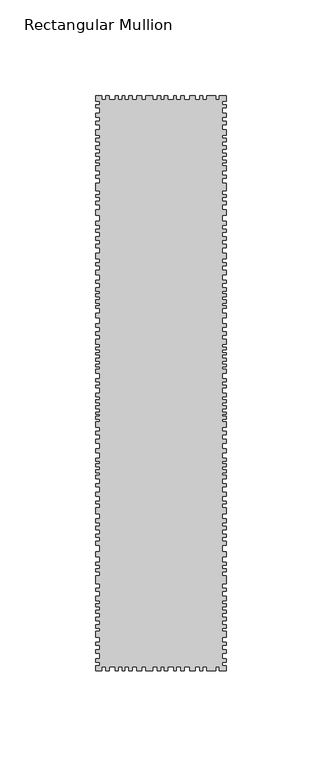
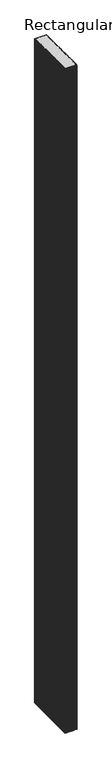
"""IFC4 building model written with IfcOpenShell, lengths in millimetres: member geometry, Rectangular Mullion : DucoSun Cubic Design louvre 300."""

from ifc_helpers import new_model, si_unit, frame, origin, place, context, project, spatial, polyline, outline, extrude, source, transform, mapped, element, save


def rectangular_mullion_f4db7530(model_context):
    return source(origin(), model_context, "Body", "SweptSolid", [
        extrude(outline(polyline([(34.0, -297.3782451), (34.0, -300.0), (30.4544414, -300.0), (30.4544414, -298.0), (28.627942, -298.0), (28.627942, -300.0), (23.9842994, -300.0), (23.9842994, -298.0), (21.8172663, -298.0), (21.8172663, -300.0), (20.3003431, -300.0), (20.3003431, -298.0), (17.9475642, -298.0), (17.9475642, -300.0), (14.8827601, -300.0), (14.8827601, -298.0), (12.0965746, -298.0), (12.0965746, -300.0), (10.3939057, -300.0), (10.3939057, -298.0), (8.0101692, -298.0), (8.0101692, -300.0), (6.5242036, -300.0), (6.5242036, -298.0), (3.4884678, -298.0), (3.4884678, -300.0), (1.7094289, -300.0), (1.7094289, -298.0), (0.0, -298.0), (0.0, -300.0), (-1.8486488, -300.0), (-1.8486488, -298.0), (-4.2128978, -298.0), (-4.2128978, -300.0), (-7.9816511, -300.0), (-7.9816511, -298.0), (-10.0415908, -298.0), (-10.0415908, -300.0), (-12.7335575, -300.0), (-12.7335575, -298.0), (-15.0041729, -298.0), (-15.0041729, -300.0), (-16.8768453, -300.0), (-16.8768453, -298.0), (-18.9367851, -298.0), (-18.9367851, -300.0), (-20.2710642, -300.0), (-20.2710642, -298.0), (-22.3075955, -298.0), (-22.3075955, -300.0), (-23.8993671, -300.0), (-23.8993671, -298.0), (-26.9658683, -298.0), (-26.9658683, -300.0), (-28.9321744, -300.0), (-28.9321744, -298.0), (-30.8750721, -298.0), (-30.8750721, -300.0), (-34.0, -300.0), (-34.0, -297.3782451), (-32.0, -297.3782451), (-32.0, -295.4241521), (-34.0, -295.4241521), (-34.0, -293.6532553), (-32.0, -293.6532553), (-32.0, -290.9460223), (-34.0, -290.9460223), (-34.0, -288.9105087), (-32.0, -288.9105087), (-32.0, -286.7121541), (-34.0, -286.7121541), (-34.0, -285.0023227), (-32.0, -285.0023227), (-32.0, -282.3561551), (-34.0, -282.3561551), (-34.0, -279.3843053), (-32.0, -279.3843053), (-32.0, -277.8917893), (-34.0, -277.8917893), (-34.0, -275.8425117), (-32.0, -275.8425117), (-32.0, -273.8680636), (-34.0, -273.8680636), (-34.0, -272.1582322), (-32.0, -272.1582322), (-32.0, -270.0820083), (-34.0, -270.0820083), (-34.0, -268.3111116), (-32.0, -268.3111116), (-32.0, -266.4995045), (-34.0, -266.4995045), (-34.0, -265.0713495), (-32.0, -265.0713495), (-32.0, -263.4577392), (-34.0, -263.4577392), (-34.0, -261.0328231), (-32.0, -261.0328231), (-32.0, -258.5725067), (-34.0, -258.5725067), (-34.0, -257.0325964), (-32.0, -257.0325964), (-32.0, -254.5014796), (-34.0, -254.5014796), (-34.0, -250.4127524), (-32.0, -250.4127524), (-32.0, -248.4126391), (-34.0, -248.4126391), (-34.0, -246.8373286), (-32.0, -246.8373286), (-32.0, -244.9965163), (-34.0, -244.9965163), (-34.0, -243.3504053), (-32.0, -243.3504053), (-32.0, -240.3767855), (-34.0, -240.3767855), (-34.0, -237.9545244), (-32.0, -237.9545244), (-32.0, -234.5552168), (-34.0, -234.5552168), (-34.0, -232.5197032), (-32.0, -232.5197032), (-32.0, -230.239928), (-34.0, -230.239928), (-34.0, -228.6929377), (-32.0, -228.6929377), (-32.0, -226.4335177), (-34.0, -226.4335177), (-34.0, -224.5608452), (-32.0, -224.5608452), (-32.0, -222.6271073), (-34.0, -222.6271073), (-34.0, -220.5508835), (-32.0, -220.5508835), (-32.0, -218.0064916), (-34.0, -218.0064916), (-34.0, -214.9328661), (-32.0, -214.9328661), (-32.0, -212.9177077), (-34.0, -212.9177077), (-34.0, -211.4114277), (-32.0, -211.4114277), (-32.0, -208.9688114), (-34.0, -208.9688114), (-34.0, -206.7118273), (-32.0, -206.7118273), (-32.0, -203.8852623), (-34.0, -203.8852623), (-34.0, -202.4316003), (-32.0, -202.4316003), (-32.0, -199.9011516), (-34.0, -199.9011516), (-34.0, -197.8552569), (-32.0, -197.8552569), (-32.0, -196.6169522), (-34.0, -196.6169522), (-34.0, -195.0825312), (-32.0, -195.0825312), (-32.0, -193.4673512), (-34.0, -193.4673512), (-34.0, -192.0675286), (-32.0, -192.0675286), (-32.0, -190.5869469), (-34.0, -190.5869469), (-34.0, -189.1602046), (-32.0, -189.1602046), (-32.0, -186.3310055), (-34.0, -186.3310055), (-34.0, -184.2608252), (-32.0, -184.2608252), (-32.0, -181.1919832), (-34.0, -181.1919832), (-34.0, -179.2537672), (-32.0, -179.2537672), (-32.0, -176.9360418), (-34.0, -176.9360418), (-34.0, -175.0004598), (-32.0, -175.0004598), (-32.0, -172.9007258), (-34.0, -172.9007258), (-34.0, -170.1010805), (-32.0, -170.1010805), (-32.0, -168.8089365), (-34.0, -168.8089365), (-34.0, -167.3014351), (-32.0, -167.3014351), (-32.0, -166.0362108), (-34.0, -166.0362108), (-34.0, -165.0401831), (-32.0, -165.0401831), (-32.0, -163.2096458), (-34.0, -163.2096458), (-34.0, -161.6483051), (-32.0, -161.6483051), (-32.0, -160.1408038), (-34.0, -160.1408038), (-34.0, -158.6063828), (-32.0, -158.6063828), (-32.0, -157.0719618), (-34.0, -157.0719618), (-34.0, -155.0799064), (-32.0, -155.0799064), (-32.0, -152.3762692), (-34.0, -152.3762692), (-34.0, -150.8903036), (-32.0, -150.8903036), (-32.0, -149.1257194), (-34.0, -149.1257194), (-34.0, -147.6087962), (-32.0, -147.6087962), (-32.0, -144.8535683), (-34.0, -144.8535683), (-34.0, -142.7484504), (-32.0, -142.7484504), (-32.0, -141.4172729), (-34.0, -141.4172729), (-34.0, -139.9622649), (-32.0, -139.9622649), (-32.0, -138.3524688), (-34.0, -138.3524688), (-34.0, -136.8355456), (-32.0, -136.8355456), (-32.0, -135.1947919), (-34.0, -135.1947919), (-34.0, -133.9255296), (-32.0, -133.9255296), (-32.0, -132.5014792), (-34.0, -132.5014792), (-34.0, -131.1083865), (-32.0, -131.1083865), (-32.0, -129.6843361), (-34.0, -129.6843361), (-34.0, -127.0529387), (-32.0, -127.0529387), (-32.0, -124.9787784), (-34.0, -124.9787784), (-34.0, -123.0284485), (-32.0, -123.0284485), (-32.0, -120.7995001), (-34.0, -120.7995001), (-34.0, -118.8182126), (-32.0, -118.8182126), (-32.0, -115.6914933), (-34.0, -115.6914933), (-34.0, -113.4935025), (-32.0, -113.4935025), (-32.0, -110.954978), (-34.0, -110.954978), (-34.0, -109.4070971), (-32.0, -109.4070971), (-32.0, -108.1378348), (-34.0, -108.1378348), (-34.0, -106.4970812), (-32.0, -106.4970812), (-32.0, -104.8253698), (-34.0, -104.8253698), (-34.0, -103.3394042), (-32.0, -103.3394042), (-32.0, -102.0391843), (-34.0, -102.0391843), (-34.0, -100.0578969), (-32.0, -100.0578969), (-32.0, -97.6741604), (-34.0, -97.6741604), (-34.0, -96.0953219), (-32.0, -96.0953219), (-32.0, -93.3091364), (-34.0, -93.3091364), (-34.0, -91.0182728), (-32.0, -91.0182728), (-32.0, -88.572621), (-34.0, -88.572621), (-34.0, -87.1485707), (-32.0, -87.1485707), (-32.0, -85.0124951), (-34.0, -85.0124951), (-34.0, -82.1643944), (-32.0, -82.1643944), (-32.0, -79.3782089), (-34.0, -79.3782089), (-34.0, -77.427879), (-32.0, -77.427879), (-32.0, -75.4156339), (-34.0, -75.4156339), (-34.0, -73.6510498), (-32.0, -73.6510498), (-32.0, -71.1744404), (-34.0, -71.1744404), (-34.0, -69.6884748), (-32.0, -69.6884748), (-32.0, -67.5523993), (-34.0, -67.5523993), (-34.0, -65.4163237), (-32.0, -65.4163237), (-32.0, -62.1967316), (-34.0, -62.1967316), (-34.0, -59.5343765), (-32.0, -59.5343765), (-32.0, -56.7791486), (-34.0, -56.7791486), (-34.0, -55.0764797), (-32.0, -55.0764797), (-32.0, -52.9404041), (-34.0, -52.9404041), (-34.0, -51.6092266), (-32.0, -51.6092266), (-32.0, -49.5660239), (-34.0, -49.5660239), (-34.0, -45.512038), (-32.0, -45.512038), (-32.0, -43.0030092), (-34.0, -43.0030092), (-34.0, -41.3312979), (-32.0, -41.3312979), (-32.0, -39.0404342), (-34.0, -39.0404342), (-34.0, -36.5638249), (-32.0, -36.5638249), (-32.0, -35.015944), (-34.0, -35.015944), (-34.0, -33.5609361), (-32.0, -33.5609361), (-32.0, -31.5796486), (-34.0, -31.5796486), (-34.0, -30.0627254), (-32.0, -30.0627254), (-32.0, -27.8337769), (-34.0, -27.8337769), (-34.0, -26.1620656), (-32.0, -26.1620656), (-32.0, -24.0259901), (-34.0, -24.0259901), (-34.0, -22.0756602), (-32.0, -22.0756602), (-32.0, -20.6516099), (-34.0, -20.6516099), (-34.0, -17.7415939), (-32.0, -17.7415939), (-32.0, -15.2030693), (-34.0, -15.2030693), (-34.0, -13.1908242), (-32.0, -13.1908242), (-32.0, -11.2404944), (-34.0, -11.2404944), (-34.0, -9.1353764), (-32.0, -9.1353764), (-32.0, -6.2563181), (-34.0, -6.2563181), (-34.0, -4.6155644), (-32.0, -4.6155644), (-32.0, -2.8509802), (-34.0, -2.8509802), (-34.0, 0.0), (-30.8750721, 0.0), (-30.8750721, -2.0), (-28.9321744, -2.0), (-28.9321744, 0.0), (-26.9658683, 0.0), (-26.9658683, -2.0), (-23.8993671, -2.0), (-23.8993671, 0.0), (-22.3075955, 0.0), (-22.3075955, -2.0), (-20.2710642, -2.0), (-20.2710642, 0.0), (-18.9367851, 0.0), (-18.9367851, -2.0), (-16.8768453, -2.0), (-16.8768453, 0.0), (-15.0041729, 0.0), (-15.0041729, -2.0), (-12.7335575, -2.0), (-12.7335575, 0.0), (-10.0415908, 0.0), (-10.0415908, -2.0), (-7.9816511, -2.0), (-7.9816511, 0.0), (-4.2128978, 0.0), (-4.2128978, -2.0), (-1.8486488, -2.0), (-1.8486488, 0.0), (0.0, 0.0), (0.0, -2.0), (1.7094289, -2.0), (1.7094289, 0.0), (3.4884678, 0.0), (3.4884678, -2.0), (6.5242036, -2.0), (6.5242036, 0.0), (8.0101692, 0.0), (8.0101692, -2.0), (10.3939057, -2.0), (10.3939057, 0.0), (12.0965746, 0.0), (12.0965746, -2.0), (14.8827601, -2.0), (14.8827601, 0.0), (17.9475642, 0.0), (17.9475642, -2.0), (20.3003431, -2.0), (20.3003431, 0.0), (21.8172663, 0.0), (21.8172663, -2.0), (23.9842994, -2.0), (23.9842994, 0.0), (28.627942, 0.0), (28.627942, -2.0), (30.4544414, -2.0), (30.4544414, 0.0), (34.0, 0.0), (34.0, -2.8509802), (32.0, -2.8509802), (32.0, -4.6155644), (34.0, -4.6155644), (34.0, -6.2563181), (32.0, -6.2563181), (32.0, -9.1353764), (34.0, -9.1353764), (34.0, -11.2404944), (32.0, -11.2404944), (32.0, -13.1908242), (34.0, -13.1908242), (34.0, -15.2030693), (32.0, -15.2030693), (32.0, -17.7415939), (34.0, -17.7415939), (34.0, -20.6516099), (32.0, -20.6516099), (32.0, -22.0756602), (34.0, -22.0756602), (34.0, -24.0259901), (32.0, -24.0259901), (32.0, -26.1620656), (34.0, -26.1620656), (34.0, -27.8337769), (32.0, -27.8337769), (32.0, -30.0627254), (34.0, -30.0627254), (34.0, -31.5796486), (32.0, -31.5796486), (32.0, -33.5609361), (34.0, -33.5609361), (34.0, -35.015944), (32.0, -35.015944), (32.0, -36.5638249), (34.0, -36.5638249), (34.0, -39.0404342), (32.0, -39.0404342), (32.0, -41.3312979), (34.0, -41.3312979), (34.0, -43.0030092), (32.0, -43.0030092), (32.0, -45.512038), (34.0, -45.512038), (34.0, -49.5660239), (32.0, -49.5660239), (32.0, -51.6092266), (34.0, -51.6092266), (34.0, -52.9404041), (32.0, -52.9404041), (32.0, -55.0764797), (34.0, -55.0764797), (34.0, -56.7791486), (32.0, -56.7791486), (32.0, -59.5343765), (34.0, -59.5343765), (34.0, -62.1967316), (32.0, -62.1967316), (32.0, -65.4163237), (34.0, -65.4163237), (34.0, -67.5523993), (32.0, -67.5523993), (32.0, -69.6884748), (34.0, -69.6884748), (34.0, -71.1744404), (32.0, -71.1744404), (32.0, -73.6510498), (34.0, -73.6510498), (34.0, -75.4156339), (32.0, -75.4156339), (32.0, -77.427879), (34.0, -77.427879), (34.0, -79.3782089), (32.0, -79.3782089), (32.0, -82.1643944), (34.0, -82.1643944), (34.0, -85.0124951), (32.0, -85.0124951), (32.0, -87.1485707), (34.0, -87.1485707), (34.0, -88.572621), (32.0, -88.572621), (32.0, -91.0182728), (34.0, -91.0182728), (34.0, -93.3091364), (32.0, -93.3091364), (32.0, -96.0953219), (34.0, -96.0953219), (34.0, -97.6741604), (32.0, -97.6741604), (32.0, -100.0578969), (34.0, -100.0578969), (34.0, -102.0391843), (32.0, -102.0391843), (32.0, -103.3394042), (34.0, -103.3394042), (34.0, -104.8253698), (32.0, -104.8253698), (32.0, -106.4970812), (34.0, -106.4970812), (34.0, -108.1378348), (32.0, -108.1378348), (32.0, -109.4070971), (34.0, -109.4070971), (34.0, -110.954978), (32.0, -110.954978), (32.0, -113.4935025), (34.0, -113.4935025), (34.0, -115.6914933), (32.0, -115.6914933), (32.0, -118.8182126), (34.0, -118.8182126), (34.0, -120.7995001), (32.0, -120.7995001), (32.0, -123.0284485), (34.0, -123.0284485), (34.0, -124.9787784), (32.0, -124.9787784), (32.0, -127.0529387), (34.0, -127.0529387), (34.0, -129.6843361), (32.0, -129.6843361), (32.0, -131.1083865), (34.0, -131.1083865), (34.0, -132.5014792), (32.0, -132.5014792), (32.0, -133.9255296), (34.0, -133.9255296), (34.0, -135.1947919), (32.0, -135.1947919), (32.0, -136.8355456), (34.0, -136.8355456), (34.0, -138.3524688), (32.0, -138.3524688), (32.0, -139.9622649), (34.0, -139.9622649), (34.0, -141.4172729), (32.0, -141.4172729), (32.0, -142.7484504), (34.0, -142.7484504), (34.0, -144.8535683), (32.0, -144.8535683), (32.0, -147.6087962), (34.0, -147.6087962), (34.0, -149.1257194), (32.0, -149.1257194), (32.0, -150.8903036), (34.0, -150.8903036), (34.0, -152.3762692), (32.0, -152.3762692), (32.0, -155.0799064), (34.0, -155.0799064), (34.0, -157.0719618), (32.0, -157.0719618), (32.0, -158.6063828), (34.0, -158.6063828), (34.0, -160.1408038), (32.0, -160.1408038), (32.0, -161.6483051), (34.0, -161.6483051), (34.0, -163.2096458), (32.0, -163.2096458), (32.0, -165.0401831), (34.0, -165.0401831), (34.0, -166.0362108), (32.0, -166.0362108), (32.0, -167.3014351), (34.0, -167.3014351), (34.0, -168.8089365), (32.0, -168.8089365), (32.0, -170.1010805), (34.0, -170.1010805), (34.0, -172.9007258), (32.0, -172.9007258), (32.0, -175.0004598), (34.0, -175.0004598), (34.0, -176.9360418), (32.0, -176.9360418), (32.0, -179.2537672), (34.0, -179.2537672), (34.0, -181.1919832), (32.0, -181.1919832), (32.0, -184.2608252), (34.0, -184.2608252), (34.0, -186.3310055), (32.0, -186.3310055), (32.0, -189.1602046), (34.0, -189.1602046), (34.0, -190.5869469), (32.0, -190.5869469), (32.0, -192.0675286), (34.0, -192.0675286), (34.0, -193.4673512), (32.0, -193.4673512), (32.0, -195.0825312), (34.0, -195.0825312), (34.0, -196.6169522), (32.0, -196.6169522), (32.0, -197.8552569), (34.0, -197.8552569), (34.0, -199.9011516), (32.0, -199.9011516), (32.0, -202.4316003), (34.0, -202.4316003), (34.0, -203.8852623), (32.0, -203.8852623), (32.0, -206.7118273), (34.0, -206.7118273), (34.0, -208.9688114), (32.0, -208.9688114), (32.0, -211.4114277), (34.0, -211.4114277), (34.0, -212.9177077), (32.0, -212.9177077), (32.0, -214.9328661), (34.0, -214.9328661), (34.0, -218.0064916), (32.0, -218.0064916), (32.0, -220.5508835), (34.0, -220.5508835), (34.0, -222.6271073), (32.0, -222.6271073), (32.0, -224.5608452), (34.0, -224.5608452), (34.0, -226.4335177), (32.0, -226.4335177), (32.0, -228.6929377), (34.0, -228.6929377), (34.0, -230.239928), (32.0, -230.239928), (32.0, -232.5197032), (34.0, -232.5197032), (34.0, -234.5552168), (32.0, -234.5552168), (32.0, -237.9545244), (34.0, -237.9545244), (34.0, -240.3767855), (32.0, -240.3767855), (32.0, -243.3504053), (34.0, -243.3504053), (34.0, -244.9965163), (32.0, -244.9965163), (32.0, -246.8373286), (34.0, -246.8373286), (34.0, -248.4126391), (32.0, -248.4126391), (32.0, -250.4127524), (34.0, -250.4127524), (34.0, -254.5014796), (32.0, -254.5014796), (32.0, -257.0325964), (34.0, -257.0325964), (34.0, -258.5725067), (32.0, -258.5725067), (32.0, -261.0328231), (34.0, -261.0328231), (34.0, -263.4577392), (32.0, -263.4577392), (32.0, -265.0713495), (34.0, -265.0713495), (34.0, -266.4995045), (32.0, -266.4995045), (32.0, -268.3111116), (34.0, -268.3111116), (34.0, -270.0820083), (32.0, -270.0820083), (32.0, -272.1582322), (34.0, -272.1582322), (34.0, -273.8680636), (32.0, -273.8680636), (32.0, -275.8425117), (34.0, -275.8425117), (34.0, -277.8917893), (32.0, -277.8917893), (32.0, -279.3843053), (34.0, -279.3843053), (34.0, -282.3561551), (32.0, -282.3561551), (32.0, -285.0023227), (34.0, -285.0023227), (34.0, -286.7121541), (32.0, -286.7121541), (32.0, -288.9105087), (34.0, -288.9105087), (34.0, -290.9460223), (32.0, -290.9460223), (32.0, -293.6532553), (34.0, -293.6532553), (34.0, -295.4241521), (32.0, -295.4241521), (32.0, -297.3782451), (34.0, -297.3782451)])), frame((0.0, 0.0, -4000.0), z_axis=(0.0, 0.0, 1.0), x_axis=(1.0, 0.0, 0.0)), (0.0, 0.0, 1.0), 4000.0),
    ])


if __name__ == "__main__":
    model = new_model("IFC4")
    model_context = context("Model", 3, world=origin())
    ifc_project = project(units=[si_unit("LENGTHUNIT", "METRE", prefix="MILLI")], contexts=[model_context])
    site = spatial("IfcSite", under=ifc_project)
    building = spatial("IfcBuilding", under=site)
    placement = place(None, origin())
    rectangular_mullion_shape = rectangular_mullion_f4db7530(model_context)
    element("IfcMember", 1, ObjectType="Rectangular Mullion : DucoSun Cubic Design louvre 300", at=placement, inside=building, context=model_context, shape_type="MappedRepresentation", body=[
        mapped(rectangular_mullion_shape, transform((0.0, 0.0, 0.0), x_axis=(1.0, 0.0, 0.0), y_axis=(0.0, 1.0, 0.0), z_axis=(0.0, 0.0, 1.0))),
    ])
    save(model, "model.ifc")
